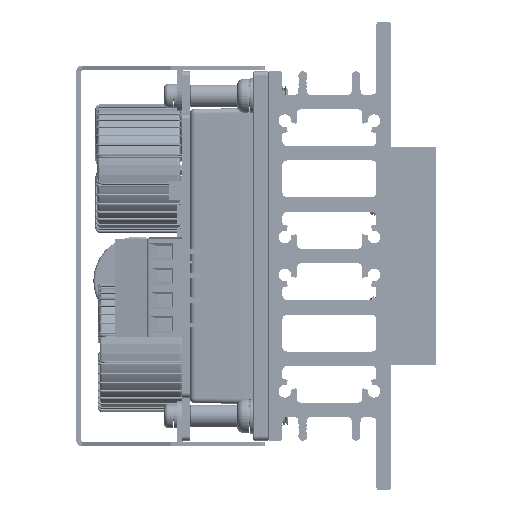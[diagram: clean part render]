
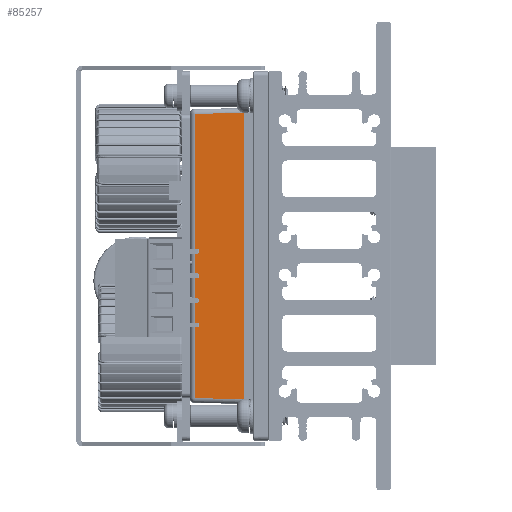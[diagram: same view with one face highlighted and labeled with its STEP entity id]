
A CAD part, left-side view. The second image highlights one B-rep face of the part: STEP entity #85257.
In plain terms, the highlighted planar face has unit normal (-1, 0.018, 0).
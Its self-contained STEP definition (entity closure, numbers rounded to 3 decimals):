
#3315 = DIRECTION ( 'NONE',  ( 0.017, 1., -0.017 ) ) ;
#4279 = CARTESIAN_POINT ( 'NONE',  ( -6.117, 18.117, -29.324 ) ) ;
#5469 = CARTESIAN_POINT ( 'NONE',  ( -6.294, 7.983, 29.5 ) ) ;
#9859 = VECTOR ( 'NONE', #76255, 1000. ) ;
#26787 = PLANE ( 'NONE',  #169719 ) ;
#40965 = LINE ( 'NONE', #176507, #9859 ) ;
#50427 = CARTESIAN_POINT ( 'NONE',  ( -6.294, 8., -29.5 ) ) ;
#57850 = CARTESIAN_POINT ( 'NONE',  ( -6.117, 18.117, 29.324 ) ) ;
#58309 = LINE ( 'NONE', #125540, #71441 ) ;
#63504 = VERTEX_POINT ( 'NONE', #50427 ) ;
#64343 = LINE ( 'NONE', #200930, #170620 ) ;
#71441 = VECTOR ( 'NONE', #192763, 1000. ) ;
#76255 = DIRECTION ( 'NONE',  ( 0., 0., -1. ) ) ;
#85257 = ADVANCED_FACE ( 'NONE', ( #214107 ), #26787, .T. ) ;
#96377 = DIRECTION ( 'NONE',  ( -0.017, -1., -0.017 ) ) ;
#107792 = VERTEX_POINT ( 'NONE', #4279 ) ;
#117835 = EDGE_CURVE ( 'NONE', #63504, #176831, #58309, .T. ) ;
#125540 = CARTESIAN_POINT ( 'NONE',  ( -6.294, 8., -30.5 ) ) ;
#128165 = DIRECTION ( 'NONE',  ( 0.017, 1., 0. ) ) ;
#132499 = DIRECTION ( 'NONE',  ( -1., 0.017, 0. ) ) ;
#137643 = VECTOR ( 'NONE', #3315, 1000. ) ;
#138838 = LINE ( 'NONE', #5469, #137643 ) ;
#139923 = ORIENTED_EDGE ( 'NONE', *, *, #117835, .T. ) ;
#143236 = EDGE_CURVE ( 'NONE', #176831, #163522, #138838, .T. ) ;
#149564 = EDGE_LOOP ( 'NONE', ( #139923, #184683, #159197, #187654 ) ) ;
#150019 = EDGE_CURVE ( 'NONE', #107792, #63504, #64343, .T. ) ;
#159197 = ORIENTED_EDGE ( 'NONE', *, *, #188732, .T. ) ;
#163427 = CARTESIAN_POINT ( 'NONE',  ( -6.294, 8., 30.5 ) ) ;
#163522 = VERTEX_POINT ( 'NONE', #57850 ) ;
#169719 = AXIS2_PLACEMENT_3D ( 'NONE', #163427, #132499, #128165 ) ;
#170620 = VECTOR ( 'NONE', #96377, 1000. ) ;
#176437 = CARTESIAN_POINT ( 'NONE',  ( -6.294, 8., 29.5 ) ) ;
#176507 = CARTESIAN_POINT ( 'NONE',  ( -6.117, 18.117, -30.306 ) ) ;
#176831 = VERTEX_POINT ( 'NONE', #176437 ) ;
#184683 = ORIENTED_EDGE ( 'NONE', *, *, #143236, .T. ) ;
#187654 = ORIENTED_EDGE ( 'NONE', *, *, #150019, .T. ) ;
#188732 = EDGE_CURVE ( 'NONE', #163522, #107792, #40965, .T. ) ;
#192763 = DIRECTION ( 'NONE',  ( 0., 0., 1. ) ) ;
#200930 = CARTESIAN_POINT ( 'NONE',  ( -6.276, 9.047, -29.482 ) ) ;
#214107 = FACE_OUTER_BOUND ( 'NONE', #149564, .T. ) ;
